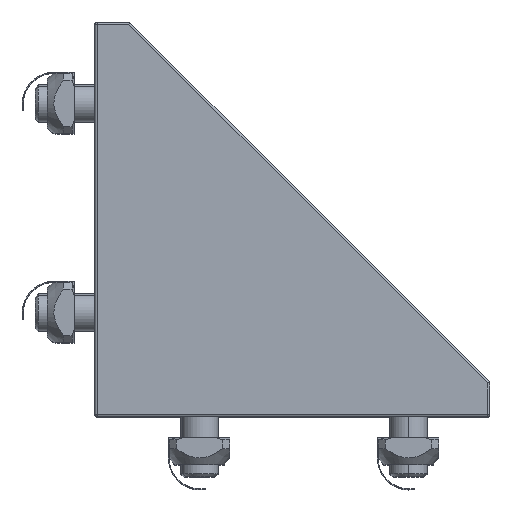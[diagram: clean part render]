
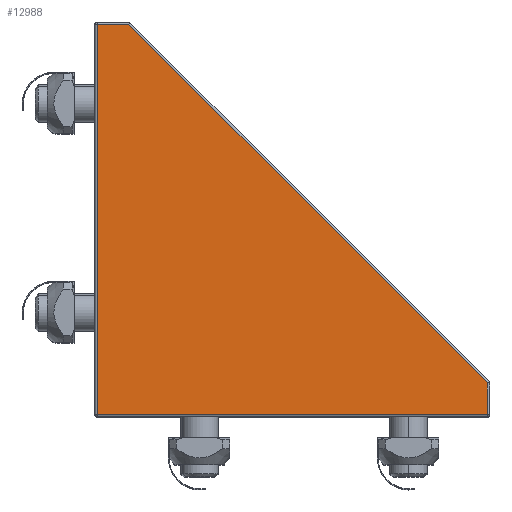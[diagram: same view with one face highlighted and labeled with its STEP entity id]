
A CAD part, top view. The second image highlights one B-rep face of the part: STEP entity #12988.
In plain terms, the highlighted planar face has unit normal (0, 0, 1).
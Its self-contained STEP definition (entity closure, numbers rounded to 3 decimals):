
#556 = DIRECTION ( 'NONE',  ( -1., 0., 0. ) ) ;
#1769 = ORIENTED_EDGE ( 'NONE', *, *, #30404, .T. ) ;
#2952 = CARTESIAN_POINT ( 'NONE',  ( 56.631, -16.087, 64.43 ) ) ;
#5279 = LINE ( 'NONE', #19685, #12117 ) ;
#5942 = VERTEX_POINT ( 'NONE', #17043 ) ;
#6282 = CARTESIAN_POINT ( 'NONE',  ( 14.631, 18.913, 64.43 ) ) ;
#7790 = DIRECTION ( 'NONE',  ( 0., -1., 0. ) ) ;
#7984 = DIRECTION ( 'NONE',  ( -0.707, 0.707, 0. ) ) ;
#8102 = CARTESIAN_POINT ( 'NONE',  ( 57.131, -23.087, 64.43 ) ) ;
#8114 = DIRECTION ( 'NONE',  ( 0., 1., 0. ) ) ;
#9164 = ORIENTED_EDGE ( 'NONE', *, *, #12903, .T. ) ;
#10377 = EDGE_CURVE ( 'NONE', #25988, #13468, #28818, .T. ) ;
#10382 = ORIENTED_EDGE ( 'NONE', *, *, #24824, .T. ) ;
#10800 = FACE_OUTER_BOUND ( 'NONE', #11911, .T. ) ;
#11911 = EDGE_LOOP ( 'NONE', ( #10382, #21694, #9164, #26480, #1769 ) ) ;
#12117 = VECTOR ( 'NONE', #7790, 1000. ) ;
#12903 = EDGE_CURVE ( 'NONE', #5942, #25988, #19872, .T. ) ;
#12988 = ADVANCED_FACE ( 'NONE', ( #10800 ), #20343, .T. ) ;
#13220 = EDGE_CURVE ( 'NONE', #22650, #5942, #17177, .T. ) ;
#13468 = VERTEX_POINT ( 'NONE', #29908 ) ;
#13897 = AXIS2_PLACEMENT_3D ( 'NONE', #6282, #15794, #23159 ) ;
#15429 = LINE ( 'NONE', #8102, #29730 ) ;
#15590 = DIRECTION ( 'NONE',  ( 1., 0., 0. ) ) ;
#15794 = DIRECTION ( 'NONE',  ( 0., 0., 1. ) ) ;
#16428 = VECTOR ( 'NONE', #8114, 1000. ) ;
#17043 = CARTESIAN_POINT ( 'NONE',  ( 56.631, -16.294, 64.43 ) ) ;
#17177 = LINE ( 'NONE', #2952, #16428 ) ;
#19685 = CARTESIAN_POINT ( 'NONE',  ( -27.369, -23.587, 64.43 ) ) ;
#19872 = LINE ( 'NONE', #20026, #28337 ) ;
#20026 = CARTESIAN_POINT ( 'NONE',  ( 18.028, 22.309, 64.43 ) ) ;
#20343 = PLANE ( 'NONE',  #13897 ) ;
#21694 = ORIENTED_EDGE ( 'NONE', *, *, #13220, .T. ) ;
#22650 = VERTEX_POINT ( 'NONE', #26458 ) ;
#23159 = DIRECTION ( 'NONE',  ( 1., 0., 0. ) ) ;
#24824 = EDGE_CURVE ( 'NONE', #30773, #22650, #15429, .T. ) ;
#25549 = CARTESIAN_POINT ( 'NONE',  ( -27.369, -23.087, 64.43 ) ) ;
#25988 = VERTEX_POINT ( 'NONE', #30626 ) ;
#26458 = CARTESIAN_POINT ( 'NONE',  ( 56.631, -23.087, 64.43 ) ) ;
#26480 = ORIENTED_EDGE ( 'NONE', *, *, #10377, .T. ) ;
#26526 = CARTESIAN_POINT ( 'NONE',  ( -27.869, 60.913, 64.43 ) ) ;
#26949 = VECTOR ( 'NONE', #556, 1000. ) ;
#28337 = VECTOR ( 'NONE', #7984, 1000. ) ;
#28818 = LINE ( 'NONE', #26526, #26949 ) ;
#29730 = VECTOR ( 'NONE', #15590, 1000. ) ;
#29908 = CARTESIAN_POINT ( 'NONE',  ( -27.369, 60.913, 64.43 ) ) ;
#30404 = EDGE_CURVE ( 'NONE', #13468, #30773, #5279, .T. ) ;
#30626 = CARTESIAN_POINT ( 'NONE',  ( -20.576, 60.913, 64.43 ) ) ;
#30773 = VERTEX_POINT ( 'NONE', #25549 ) ;
